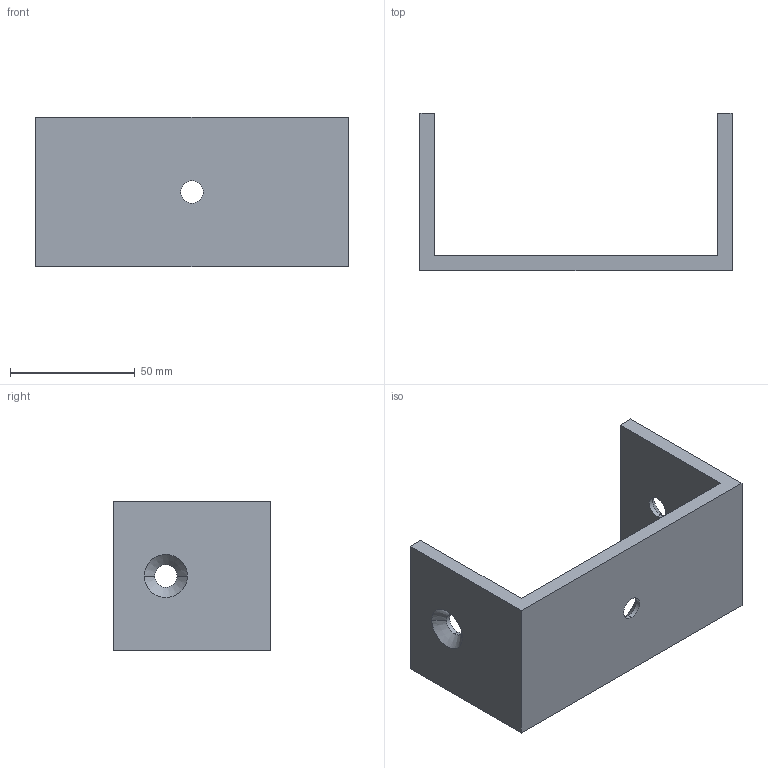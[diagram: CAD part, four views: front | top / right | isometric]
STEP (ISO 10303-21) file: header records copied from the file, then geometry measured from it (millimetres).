
FILE_DESCRIPTION (( 'STEP AP214' ), '1' );
FILE_NAME ('U125 63 ETRIER.step', '2017-04-05T08:06:08', ( '' ), ( '' ), 'SwSTEP 2.0', 'SolidWorks 2015', '' );
FILE_SCHEMA (( 'AUTOMOTIVE_DESIGN' ));
Length unit declared in the file: millimetre
Products named in the file (1): U125 63 ETRIER
Bounding box: 125 x 63 x 60 mm (x, y, z)
Volume: 83939.9 mm3; surface area: 32256.3 mm2
Topology: 1 solids, 1 shells, 22 faces, 58 edges, 38 vertices
Faces by surface type: plane 10, cylinder 6, cone 6
Entity records: 734 total; most frequent: DIRECTION 126, CARTESIAN_POINT 119, ORIENTED_EDGE 116, EDGE_CURVE 58, AXIS2_PLACEMENT_3D 45, VERTEX_POINT 38, LINE 36, VECTOR 36
